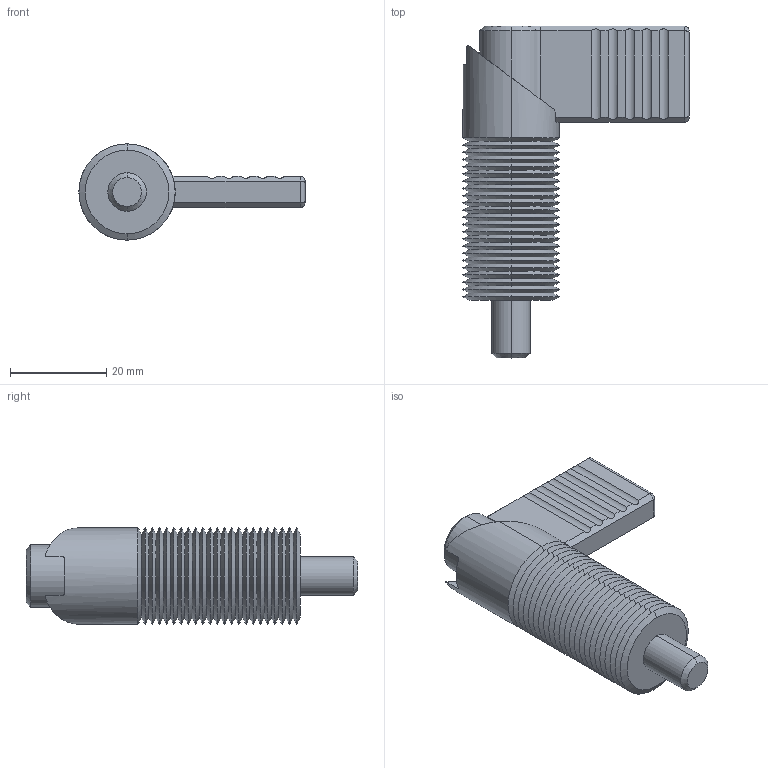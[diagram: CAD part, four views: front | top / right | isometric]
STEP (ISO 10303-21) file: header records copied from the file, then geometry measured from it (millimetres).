
FILE_DESCRIPTION (( 'STEP AP203' ), '1' );
FILE_NAME ('32501.W0328.step', '2016-02-10T17:20:58', ( 'User' ), ( '' ), 'SwSTEP 2.0', 'SolidWorks 2009', '' );
FILE_SCHEMA (( 'CONFIG_CONTROL_DESIGN' ));
Length unit declared in the file: millimetre
Products named in the file (3): Part1_32501.W0328; 32501.W0328; Part2_32501.W0328
Assembly tree (2 placements, depth 2):
  32501.W0328
    Part2_32501.W0328
    Part1_32501.W0328
Bounding box: 47 x 69 x 20 mm (x, y, z)
Volume: 15074.7 mm3; surface area: 10925.5 mm2
Topology: 2 solids, 2 shells, 171 faces, 376 edges, 212 vertices
Faces by surface type: cone 104, cylinder 40, plane 27
Entity records: 4965 total; most frequent: CARTESIAN_POINT 948, DIRECTION 826, ORIENTED_EDGE 752, EDGE_CURVE 376, AXIS2_PLACEMENT_3D 316, VERTEX_POINT 212, VECTOR 194, LINE 194
